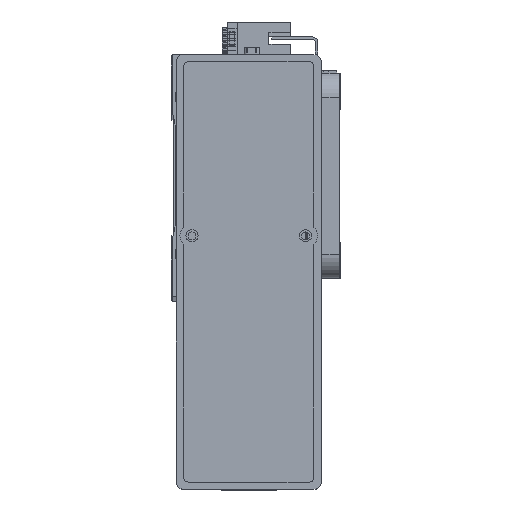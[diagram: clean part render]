
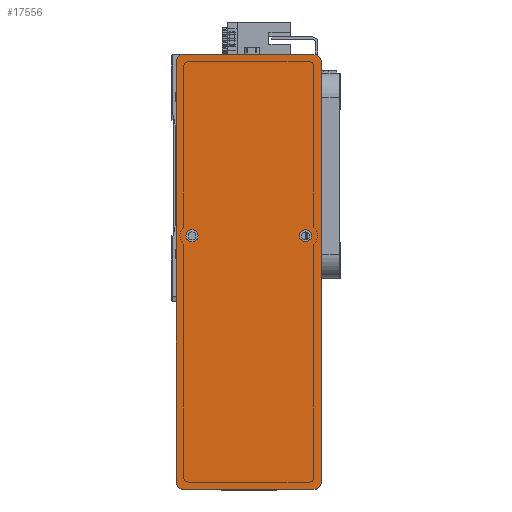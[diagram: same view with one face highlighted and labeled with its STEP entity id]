
A CAD part, top view. The second image highlights one B-rep face of the part: STEP entity #17556.
In plain terms, the highlighted planar face has unit normal (0, 0, 1) as drawn and (0, 0, -1) by its records, which use the part's own axes.
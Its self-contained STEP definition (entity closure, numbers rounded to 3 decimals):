
#39 = DIRECTION ( 'NONE',  ( 1., 0., 0. ) ) ;
#190 = PLANE ( 'NONE',  #11264 ) ;
#721 = VERTEX_POINT ( 'NONE', #7568 ) ;
#1444 = DIRECTION ( 'NONE',  ( 1., 0., 0. ) ) ;
#1613 = CARTESIAN_POINT ( 'NONE',  ( 90., 27., 0. ) ) ;
#3088 = ORIENTED_EDGE ( 'NONE', *, *, #28020, .T. ) ;
#3611 = VERTEX_POINT ( 'NONE', #42306 ) ;
#3724 = VERTEX_POINT ( 'NONE', #33461 ) ;
#3880 = ORIENTED_EDGE ( 'NONE', *, *, #18247, .F. ) ;
#4294 = CIRCLE ( 'NONE', #46475, 3. ) ;
#4648 = EDGE_CURVE ( 'NONE', #39132, #55460, #4294, .T. ) ;
#4664 = DIRECTION ( 'NONE',  ( -1., 0., 0. ) ) ;
#4766 = EDGE_CURVE ( 'NONE', #721, #30484, #22800, .T. ) ;
#4852 = DIRECTION ( 'NONE',  ( 0., 0., -1. ) ) ;
#7194 = EDGE_CURVE ( 'NONE', #16830, #3611, #55035, .T. ) ;
#7568 = CARTESIAN_POINT ( 'NONE',  ( 90., -27., 0. ) ) ;
#7849 = CARTESIAN_POINT ( 'NONE',  ( -12.5, -23.5, 0. ) ) ;
#8876 = EDGE_LOOP ( 'NONE', ( #3880, #38287 ) ) ;
#10106 = DIRECTION ( 'NONE',  ( 0., 0., -1. ) ) ;
#10121 = CARTESIAN_POINT ( 'NONE',  ( 0., 0., 0. ) ) ;
#10335 = DIRECTION ( 'NONE',  ( 1., 0., 0. ) ) ;
#11264 = AXIS2_PLACEMENT_3D ( 'NONE', #10121, #39928, #10335 ) ;
#11653 = CARTESIAN_POINT ( 'NONE',  ( -12.5, 23.5, 0. ) ) ;
#11666 = CIRCLE ( 'NONE', #50540, 2.5 ) ;
#12169 = AXIS2_PLACEMENT_3D ( 'NONE', #44590, #14977, #49570 ) ;
#14068 = FACE_OUTER_BOUND ( 'NONE', #29133, .T. ) ;
#14519 = DIRECTION ( 'NONE',  ( -1., 0., 0. ) ) ;
#14977 = DIRECTION ( 'NONE',  ( 0., 0., -1. ) ) ;
#15107 = EDGE_LOOP ( 'NONE', ( #43677, #26617 ) ) ;
#16830 = VERTEX_POINT ( 'NONE', #7849 ) ;
#17416 = ORIENTED_EDGE ( 'NONE', *, *, #45390, .T. ) ;
#17548 = VERTEX_POINT ( 'NONE', #20036 ) ;
#17556 = ADVANCED_FACE ( 'NONE', ( #40358, #51950, #14068 ), #190, .F. ) ;
#18247 = EDGE_CURVE ( 'NONE', #3611, #16830, #20901, .T. ) ;
#18289 = CARTESIAN_POINT ( 'NONE',  ( -90., -27., 0. ) ) ;
#19287 = CARTESIAN_POINT ( 'NONE',  ( -90., -30., 0. ) ) ;
#20036 = CARTESIAN_POINT ( 'NONE',  ( -17.5, 23.5, 0. ) ) ;
#20335 = CARTESIAN_POINT ( 'NONE',  ( -15., -23.5, 0. ) ) ;
#20801 = AXIS2_PLACEMENT_3D ( 'NONE', #27535, #62132, #32497 ) ;
#20887 = ORIENTED_EDGE ( 'NONE', *, *, #34278, .F. ) ;
#20901 = CIRCLE ( 'NONE', #20801, 2.5 ) ;
#21078 = CARTESIAN_POINT ( 'NONE',  ( 90., -30., 0. ) ) ;
#22383 = CARTESIAN_POINT ( 'NONE',  ( 87., 30., 0. ) ) ;
#22774 = CARTESIAN_POINT ( 'NONE',  ( -87., -30., 0. ) ) ;
#22800 = CIRCLE ( 'NONE', #12169, 3. ) ;
#24716 = CARTESIAN_POINT ( 'NONE',  ( 90., 30., 0. ) ) ;
#25323 = DIRECTION ( 'NONE',  ( -1., 0., 0. ) ) ;
#25340 = VERTEX_POINT ( 'NONE', #11653 ) ;
#26617 = ORIENTED_EDGE ( 'NONE', *, *, #46566, .F. ) ;
#26656 = VERTEX_POINT ( 'NONE', #22774 ) ;
#26849 = VECTOR ( 'NONE', #1444, 1000. ) ;
#27137 = CIRCLE ( 'NONE', #56301, 2.5 ) ;
#27535 = CARTESIAN_POINT ( 'NONE',  ( -15., -23.5, 0. ) ) ;
#28020 = EDGE_CURVE ( 'NONE', #47626, #3724, #30623, .T. ) ;
#28670 = CARTESIAN_POINT ( 'NONE',  ( 87., -30., 0. ) ) ;
#29004 = DIRECTION ( 'NONE',  ( 0., 0., -1. ) ) ;
#29133 = EDGE_LOOP ( 'NONE', ( #55591, #35826, #20887, #17416, #29972, #3088, #36580, #42485 ) ) ;
#29567 = DIRECTION ( 'NONE',  ( 0., 0., -1. ) ) ;
#29972 = ORIENTED_EDGE ( 'NONE', *, *, #46557, .F. ) ;
#30477 = CIRCLE ( 'NONE', #42534, 3. ) ;
#30484 = VERTEX_POINT ( 'NONE', #28670 ) ;
#30623 = CIRCLE ( 'NONE', #37956, 3. ) ;
#32497 = DIRECTION ( 'NONE',  ( -1., 0., 0. ) ) ;
#33461 = CARTESIAN_POINT ( 'NONE',  ( -87., 30., 0. ) ) ;
#34194 = DIRECTION ( 'NONE',  ( 0., 0., -1. ) ) ;
#34199 = VECTOR ( 'NONE', #55639, 1000. ) ;
#34278 = EDGE_CURVE ( 'NONE', #26656, #30484, #53130, .T. ) ;
#34413 = CARTESIAN_POINT ( 'NONE',  ( -15., 23.5, 0. ) ) ;
#34833 = VECTOR ( 'NONE', #14519, 1000. ) ;
#35097 = CARTESIAN_POINT ( 'NONE',  ( -90., 27., 0. ) ) ;
#35826 = ORIENTED_EDGE ( 'NONE', *, *, #4766, .T. ) ;
#36399 = VECTOR ( 'NONE', #54046, 1000. ) ;
#36580 = ORIENTED_EDGE ( 'NONE', *, *, #46606, .F. ) ;
#37956 = AXIS2_PLACEMENT_3D ( 'NONE', #39679, #10106, #44646 ) ;
#38287 = ORIENTED_EDGE ( 'NONE', *, *, #7194, .F. ) ;
#39132 = VERTEX_POINT ( 'NONE', #22383 ) ;
#39377 = DIRECTION ( 'NONE',  ( -1., 0., 0. ) ) ;
#39679 = CARTESIAN_POINT ( 'NONE',  ( -87., 27., 0. ) ) ;
#39928 = DIRECTION ( 'NONE',  ( 0., 0., 1. ) ) ;
#40358 = FACE_BOUND ( 'NONE', #15107, .T. ) ;
#40841 = EDGE_CURVE ( 'NONE', #17548, #25340, #27137, .T. ) ;
#42306 = CARTESIAN_POINT ( 'NONE',  ( -17.5, -23.5, 0. ) ) ;
#42485 = ORIENTED_EDGE ( 'NONE', *, *, #4648, .T. ) ;
#42534 = AXIS2_PLACEMENT_3D ( 'NONE', #59242, #29567, #39 ) ;
#43677 = ORIENTED_EDGE ( 'NONE', *, *, #40841, .F. ) ;
#44382 = VERTEX_POINT ( 'NONE', #18289 ) ;
#44590 = CARTESIAN_POINT ( 'NONE',  ( 87., -27., 0. ) ) ;
#44646 = DIRECTION ( 'NONE',  ( 1., 0., 0. ) ) ;
#45390 = EDGE_CURVE ( 'NONE', #26656, #44382, #30477, .T. ) ;
#46475 = AXIS2_PLACEMENT_3D ( 'NONE', #58665, #29004, #63635 ) ;
#46557 = EDGE_CURVE ( 'NONE', #47626, #44382, #62673, .T. ) ;
#46566 = EDGE_CURVE ( 'NONE', #25340, #17548, #11666, .T. ) ;
#46606 = EDGE_CURVE ( 'NONE', #39132, #3724, #47957, .T. ) ;
#47626 = VERTEX_POINT ( 'NONE', #35097 ) ;
#47957 = LINE ( 'NONE', #24716, #34833 ) ;
#49570 = DIRECTION ( 'NONE',  ( 1., 0., 0. ) ) ;
#50540 = AXIS2_PLACEMENT_3D ( 'NONE', #34413, #4852, #39377 ) ;
#51950 = FACE_BOUND ( 'NONE', #8876, .T. ) ;
#53130 = LINE ( 'NONE', #60594, #26849 ) ;
#54046 = DIRECTION ( 'NONE',  ( 0., -1., 0. ) ) ;
#54903 = DIRECTION ( 'NONE',  ( 0., 0., -1. ) ) ;
#55035 = CIRCLE ( 'NONE', #58724, 2.5 ) ;
#55460 = VERTEX_POINT ( 'NONE', #1613 ) ;
#55591 = ORIENTED_EDGE ( 'NONE', *, *, #59447, .F. ) ;
#55639 = DIRECTION ( 'NONE',  ( 0., 1., 0. ) ) ;
#56301 = AXIS2_PLACEMENT_3D ( 'NONE', #63845, #34194, #4664 ) ;
#58665 = CARTESIAN_POINT ( 'NONE',  ( 87., 27., 0. ) ) ;
#58724 = AXIS2_PLACEMENT_3D ( 'NONE', #20335, #54903, #25323 ) ;
#59242 = CARTESIAN_POINT ( 'NONE',  ( -87., -27., 0. ) ) ;
#59447 = EDGE_CURVE ( 'NONE', #721, #55460, #60490, .T. ) ;
#60490 = LINE ( 'NONE', #21078, #34199 ) ;
#60594 = CARTESIAN_POINT ( 'NONE',  ( 90., -30., 0. ) ) ;
#62132 = DIRECTION ( 'NONE',  ( 0., 0., -1. ) ) ;
#62673 = LINE ( 'NONE', #19287, #36399 ) ;
#63635 = DIRECTION ( 'NONE',  ( 1., 0., 0. ) ) ;
#63845 = CARTESIAN_POINT ( 'NONE',  ( -15., 23.5, 0. ) ) ;
